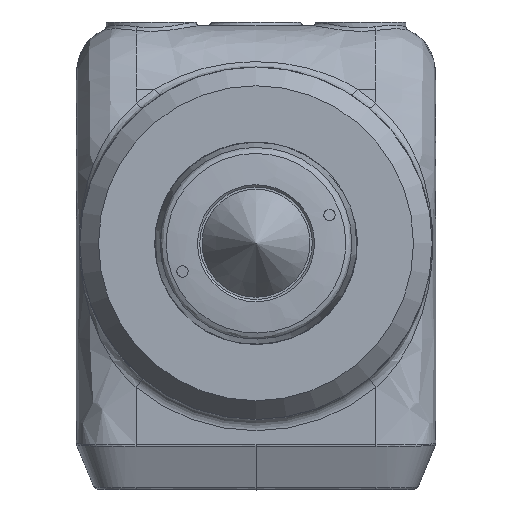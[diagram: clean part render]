
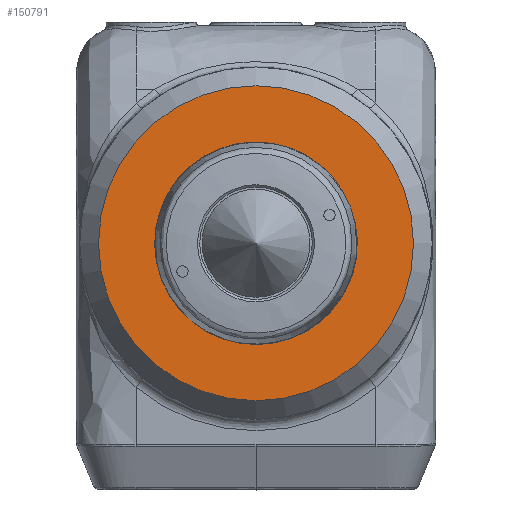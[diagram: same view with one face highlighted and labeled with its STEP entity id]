
A CAD part, front view. The second image highlights one B-rep face of the part: STEP entity #150791.
In plain terms, the highlighted planar face has unit normal (0, -1, 0).
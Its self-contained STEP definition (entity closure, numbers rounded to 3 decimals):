
#2105 = CARTESIAN_POINT ( 'NONE',  ( 0., 59.005, -13.5 ) ) ;
#15792 = DIRECTION ( 'NONE',  ( 0., 0., -1. ) ) ;
#24881 = ORIENTED_EDGE ( 'NONE', *, *, #58676, .F. ) ;
#32540 = DIRECTION ( 'NONE',  ( 0., 1., 0. ) ) ;
#38795 = DIRECTION ( 'NONE',  ( 0., -1., 0. ) ) ;
#42156 = DIRECTION ( 'NONE',  ( 0., -1., 0. ) ) ;
#45482 = EDGE_CURVE ( 'NONE', #129413, #129413, #149306, .T. ) ;
#52488 = CARTESIAN_POINT ( 'NONE',  ( 0., 59.005, -21. ) ) ;
#58676 = EDGE_CURVE ( 'NONE', #142391, #142391, #72362, .T. ) ;
#72362 = CIRCLE ( 'NONE', #89551, 13.5 ) ;
#76661 = CARTESIAN_POINT ( 'NONE',  ( 0., 59.005, 0. ) ) ;
#89551 = AXIS2_PLACEMENT_3D ( 'NONE', #109361, #38795, #15792 ) ;
#98223 = EDGE_LOOP ( 'NONE', ( #24881 ) ) ;
#99691 = DIRECTION ( 'NONE',  ( 0., 0., -1. ) ) ;
#103113 = PLANE ( 'NONE',  #110609 ) ;
#106938 = ORIENTED_EDGE ( 'NONE', *, *, #45482, .T. ) ;
#109361 = CARTESIAN_POINT ( 'NONE',  ( 0., 59.005, 0. ) ) ;
#110192 = AXIS2_PLACEMENT_3D ( 'NONE', #76661, #42156, #99691 ) ;
#110609 = AXIS2_PLACEMENT_3D ( 'NONE', #137557, #32540, #126068 ) ;
#126068 = DIRECTION ( 'NONE',  ( 0., 0., 1. ) ) ;
#129413 = VERTEX_POINT ( 'NONE', #52488 ) ;
#134546 = FACE_BOUND ( 'NONE', #98223, .T. ) ;
#137557 = CARTESIAN_POINT ( 'NONE',  ( 0., 59.005, 13.5 ) ) ;
#142391 = VERTEX_POINT ( 'NONE', #2105 ) ;
#149042 = FACE_OUTER_BOUND ( 'NONE', #151556, .T. ) ;
#149306 = CIRCLE ( 'NONE', #110192, 21. ) ;
#150791 = ADVANCED_FACE ( 'NONE', ( #134546, #149042 ), #103113, .F. ) ;
#151556 = EDGE_LOOP ( 'NONE', ( #106938 ) ) ;
